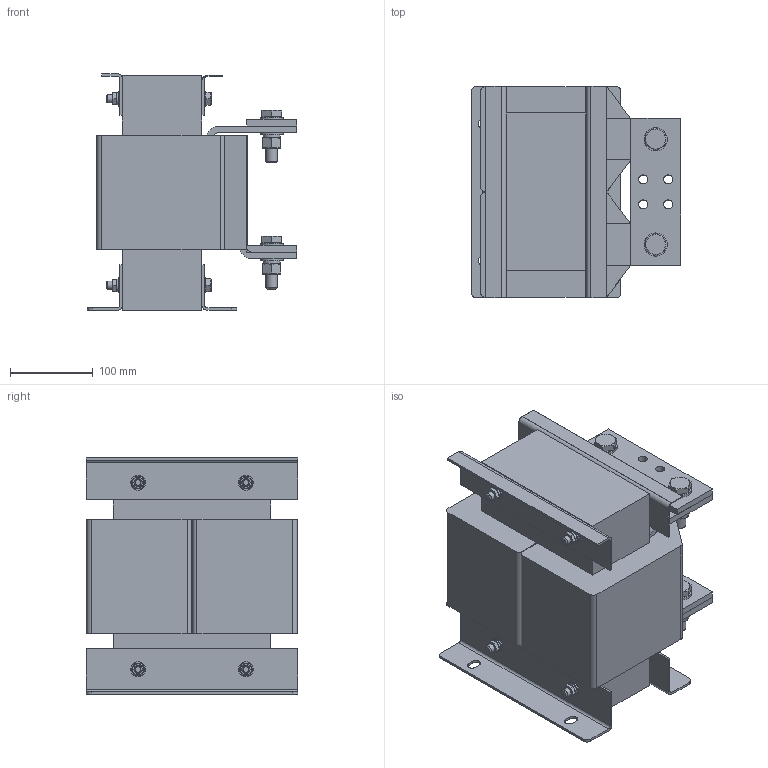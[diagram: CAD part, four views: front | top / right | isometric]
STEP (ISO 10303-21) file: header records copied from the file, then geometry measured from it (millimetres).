
FILE_DESCRIPTION(('STEP AP203'), '1');
FILE_NAME('DC-500-04 _ Äðîññåëü ïîñòîÿííîãî òîêà', '', ('UNSPECIFIED'), ('UNSPECIFIED'), 'C3D Converter', 'C3D Toolkit', '');
FILE_SCHEMA(('CONFIG_CONTROL_DESIGN'));
Length unit declared in the file: millimetre
Products named in the file (9): DC-500-04
Assembly tree (40 placements, depth 2):
  DC-500-04
    (unnamed)  x8
    (unnamed)  x4
    (unnamed)  x4
    (unnamed)  x4
    (unnamed)  x8
    (unnamed)  x4
    (unnamed)  x4
    (unnamed)  x4
Bounding box: 252 x 255 x 285 mm (x, y, z)
Volume: 9279691.9 mm3; surface area: 664844.7 mm2
Topology: 47 solids, 47 shells, 540 faces, 1202 edges, 764 vertices
Faces by surface type: plane 328, cylinder 136, cone 68, torus 8
Full cylindrical faces by diameter (mm): 8.376 x4, 10 x4, 10.5 x8, 11 x20, 11.835 x4, 14 x8, 15 x12, 18 x8, 24 x4, 28 x8
Entity records: 11988 total; most frequent: CARTESIAN_POINT 3189, DIRECTION 1318, ORIENTED_EDGE 1176, EDGE_CURVE 588, AXIS2_PLACEMENT_3D 487, VERTEX_POINT 414, EDGE_LOOP 382, LINE 344
